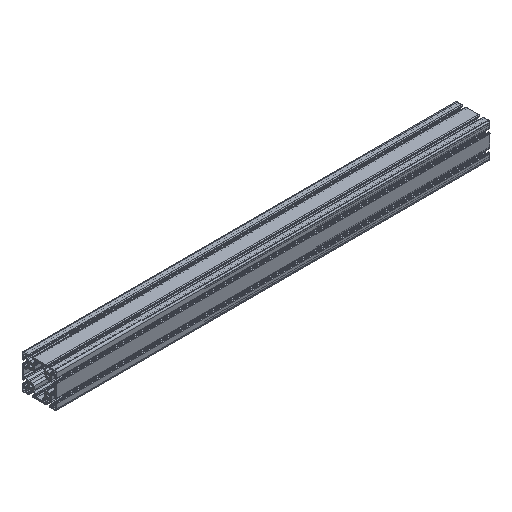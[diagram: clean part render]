
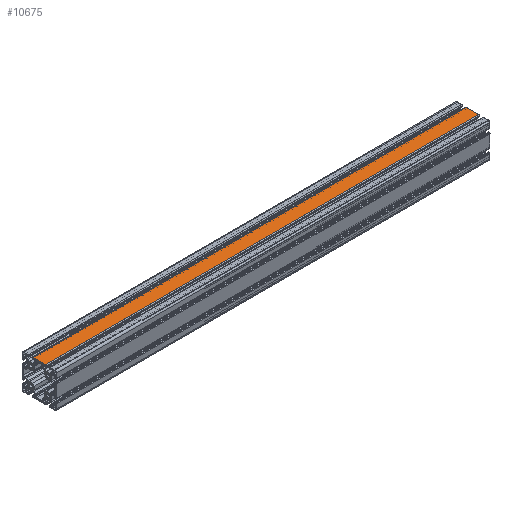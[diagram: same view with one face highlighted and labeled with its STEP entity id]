
A CAD part, isometric view. The second image highlights one B-rep face of the part: STEP entity #10675.
In plain terms, the highlighted planar face has unit normal (0, 0, 1).
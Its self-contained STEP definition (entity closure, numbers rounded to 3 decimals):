
#108 = ORIENTED_EDGE ( 'NONE', *, *, #11230, .F. ) ;
#280 = CARTESIAN_POINT ( 'NONE',  ( 1000., 14.5, 40. ) ) ;
#627 = DIRECTION ( 'NONE',  ( 0., -1., 0. ) ) ;
#1143 = CARTESIAN_POINT ( 'NONE',  ( 1000., -14.5, 40. ) ) ;
#1257 = CARTESIAN_POINT ( 'NONE',  ( 1000., -14.5, 40. ) ) ;
#1712 = CARTESIAN_POINT ( 'NONE',  ( 1000., 14.5, 40. ) ) ;
#2646 = CARTESIAN_POINT ( 'NONE',  ( 1000., 14.5, 40. ) ) ;
#2797 = FACE_OUTER_BOUND ( 'NONE', #6661, .T. ) ;
#2808 = VECTOR ( 'NONE', #6672, 1000. ) ;
#2877 = VERTEX_POINT ( 'NONE', #11431 ) ;
#3078 = LINE ( 'NONE', #10154, #2808 ) ;
#3186 = VECTOR ( 'NONE', #627, 1000. ) ;
#3212 = DIRECTION ( 'NONE',  ( 0., -1., 0. ) ) ;
#3435 = EDGE_CURVE ( 'NONE', #7114, #9290, #10197, .T. ) ;
#4200 = VERTEX_POINT ( 'NONE', #10120 ) ;
#4762 = DIRECTION ( 'NONE',  ( 0., 1., 0. ) ) ;
#5325 = CARTESIAN_POINT ( 'NONE',  ( 0., 14.5, 40. ) ) ;
#5346 = VECTOR ( 'NONE', #3212, 1000. ) ;
#5397 = EDGE_CURVE ( 'NONE', #2877, #4200, #7967, .T. ) ;
#5531 = ORIENTED_EDGE ( 'NONE', *, *, #3435, .F. ) ;
#5815 = VECTOR ( 'NONE', #7471, 1000. ) ;
#6661 = EDGE_LOOP ( 'NONE', ( #9755, #108, #5531, #9574 ) ) ;
#6672 = DIRECTION ( 'NONE',  ( -1., 0., 0. ) ) ;
#7114 = VERTEX_POINT ( 'NONE', #1712 ) ;
#7471 = DIRECTION ( 'NONE',  ( -1., 0., 0. ) ) ;
#7967 = LINE ( 'NONE', #5325, #5346 ) ;
#9110 = PLANE ( 'NONE',  #9499 ) ;
#9290 = VERTEX_POINT ( 'NONE', #1143 ) ;
#9499 = AXIS2_PLACEMENT_3D ( 'NONE', #280, #10004, #4762 ) ;
#9574 = ORIENTED_EDGE ( 'NONE', *, *, #10170, .T. ) ;
#9755 = ORIENTED_EDGE ( 'NONE', *, *, #5397, .T. ) ;
#10004 = DIRECTION ( 'NONE',  ( 0., 0., -1. ) ) ;
#10120 = CARTESIAN_POINT ( 'NONE',  ( 0., -14.5, 40. ) ) ;
#10154 = CARTESIAN_POINT ( 'NONE',  ( 1000., 14.5, 40. ) ) ;
#10170 = EDGE_CURVE ( 'NONE', #7114, #2877, #3078, .T. ) ;
#10197 = LINE ( 'NONE', #2646, #3186 ) ;
#10208 = LINE ( 'NONE', #1257, #5815 ) ;
#10675 = ADVANCED_FACE ( 'NONE', ( #2797 ), #9110, .F. ) ;
#11230 = EDGE_CURVE ( 'NONE', #9290, #4200, #10208, .T. ) ;
#11431 = CARTESIAN_POINT ( 'NONE',  ( 0., 14.5, 40. ) ) ;
